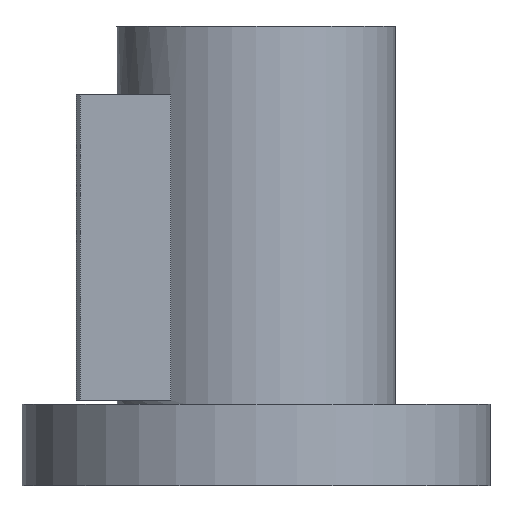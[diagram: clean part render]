
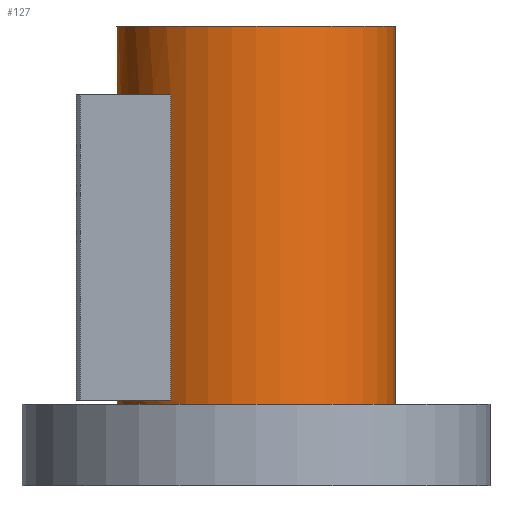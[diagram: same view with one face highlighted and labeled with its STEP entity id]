
A CAD part, front view. The second image highlights one B-rep face of the part: STEP entity #127.
In plain terms, the highlighted cylindrical face has radius 31 mm (diameter 62 mm), a full revolution.
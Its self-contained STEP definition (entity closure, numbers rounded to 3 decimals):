
#127=ADVANCED_FACE('',(#200,#201,#202),#155,.T.);
#155=CYLINDRICAL_SURFACE('',#508,31.);
#168=LINE('',#698,#184);
#169=LINE('',#702,#185);
#184=VECTOR('',#568,1.);
#185=VECTOR('',#571,1.);
#200=FACE_BOUND('',#245,.T.);
#201=FACE_BOUND('',#246,.T.);
#202=FACE_BOUND('',#247,.T.);
#245=EDGE_LOOP('',(#305));
#246=EDGE_LOOP('',(#306));
#247=EDGE_LOOP('',(#307,#308,#309,#310));
#305=ORIENTED_EDGE('',*,*,#431,.F.);
#306=ORIENTED_EDGE('',*,*,#432,.T.);
#307=ORIENTED_EDGE('',*,*,#433,.F.);
#308=ORIENTED_EDGE('',*,*,#434,.F.);
#309=ORIENTED_EDGE('',*,*,#435,.T.);
#310=ORIENTED_EDGE('',*,*,#436,.F.);
#393=VERTEX_POINT('',#692);
#394=VERTEX_POINT('',#694);
#395=VERTEX_POINT('',#696);
#396=VERTEX_POINT('',#697);
#397=VERTEX_POINT('',#699);
#398=VERTEX_POINT('',#701);
#431=EDGE_CURVE('',#393,#393,#475,.T.);
#432=EDGE_CURVE('',#394,#394,#476,.T.);
#433=EDGE_CURVE('',#395,#396,#477,.T.);
#434=EDGE_CURVE('',#397,#395,#168,.T.);
#435=EDGE_CURVE('',#397,#398,#478,.T.);
#436=EDGE_CURVE('',#396,#398,#169,.T.);
#475=CIRCLE('',#504,31.);
#476=CIRCLE('',#505,31.);
#477=CIRCLE('',#506,31.);
#478=CIRCLE('',#507,31.);
#504=AXIS2_PLACEMENT_3D('',#691,#562,#563);
#505=AXIS2_PLACEMENT_3D('',#693,#564,#565);
#506=AXIS2_PLACEMENT_3D('',#695,#566,#567);
#507=AXIS2_PLACEMENT_3D('',#700,#569,#570);
#508=AXIS2_PLACEMENT_3D('',#703,#572,#573);
#562=DIRECTION('',(0.,0.,1.));
#563=DIRECTION('',(1.,0.,0.));
#564=DIRECTION('',(0.,0.,1.));
#565=DIRECTION('',(1.,0.,0.));
#566=DIRECTION('',(0.,0.,-1.));
#567=DIRECTION('',(-1.,0.,0.));
#568=DIRECTION('',(0.,0.,1.));
#569=DIRECTION('',(0.,0.,-1.));
#570=DIRECTION('',(-1.,0.,0.));
#571=DIRECTION('',(0.,0.,-1.));
#572=DIRECTION('',(0.,0.,-1.));
#573=DIRECTION('',(-1.,0.,0.));
#691=CARTESIAN_POINT('',(0.,0.,102.));
#692=CARTESIAN_POINT('',(31.,0.,102.));
#693=CARTESIAN_POINT('',(0.,0.,18.));
#694=CARTESIAN_POINT('',(31.,0.,18.));
#695=CARTESIAN_POINT('',(0.,0.,87.));
#696=CARTESIAN_POINT('',(-18.993,-24.5,87.));
#697=CARTESIAN_POINT('',(-18.993,24.5,87.));
#698=CARTESIAN_POINT('',(-18.993,-24.5,102.));
#699=CARTESIAN_POINT('',(-18.993,-24.5,19.));
#700=CARTESIAN_POINT('',(0.,0.,19.));
#701=CARTESIAN_POINT('',(-18.993,24.5,19.));
#702=CARTESIAN_POINT('',(-18.993,24.5,102.));
#703=CARTESIAN_POINT('',(0.,0.,102.));
